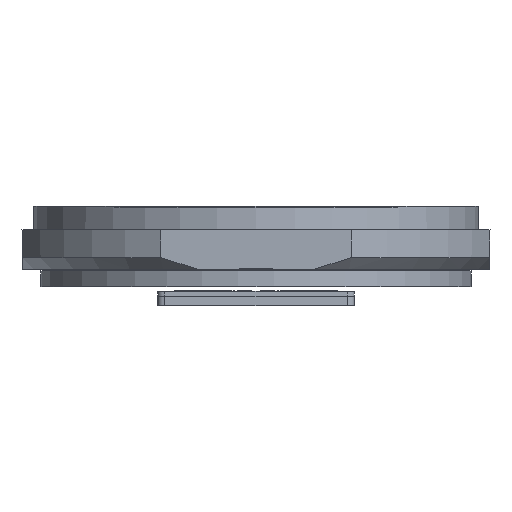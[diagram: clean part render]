
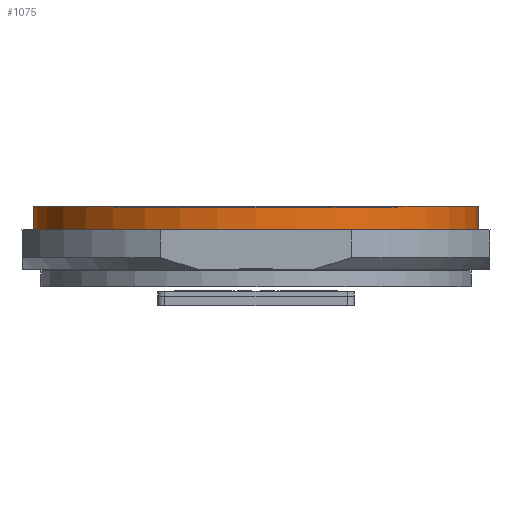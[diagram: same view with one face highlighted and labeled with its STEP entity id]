
A CAD part, left-side view. The second image highlights one B-rep face of the part: STEP entity #1075.
In plain terms, the highlighted conical face has half-angle 1 degrees and reference radius 4.75 mm.
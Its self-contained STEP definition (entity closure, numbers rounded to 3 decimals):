
#38 = FACE_OUTER_BOUND ( 'NONE', #3893, .T. ) ;
#388 = VERTEX_POINT ( 'NONE', #5394 ) ;
#730 = EDGE_CURVE ( 'NONE', #5850, #5850, #1280, .T. ) ;
#1075 = ADVANCED_FACE ( 'NONE', ( #38, #5069 ), #6520, .T. ) ;
#1137 = CIRCLE ( 'NONE', #7017, 4.759 ) ;
#1154 = AXIS2_PLACEMENT_3D ( 'NONE', #1678, #4868, #2232 ) ;
#1280 = CIRCLE ( 'NONE', #1154, 4.75 ) ;
#1678 = CARTESIAN_POINT ( 'NONE',  ( 0., 0., 1.72 ) ) ;
#1765 = CARTESIAN_POINT ( 'NONE',  ( 0., 0., 1.72 ) ) ;
#2232 = DIRECTION ( 'NONE',  ( 0., 1., 0. ) ) ;
#2596 = ORIENTED_EDGE ( 'NONE', *, *, #730, .F. ) ;
#2962 = AXIS2_PLACEMENT_3D ( 'NONE', #1765, #5022, #7532 ) ;
#3893 = EDGE_LOOP ( 'NONE', ( #4537 ) ) ;
#4337 = EDGE_LOOP ( 'NONE', ( #2596 ) ) ;
#4537 = ORIENTED_EDGE ( 'NONE', *, *, #5102, .T. ) ;
#4868 = DIRECTION ( 'NONE',  ( 0., 0., 1. ) ) ;
#5022 = DIRECTION ( 'NONE',  ( 0., 0., -1. ) ) ;
#5069 = FACE_BOUND ( 'NONE', #4337, .T. ) ;
#5102 = EDGE_CURVE ( 'NONE', #388, #388, #1137, .T. ) ;
#5394 = CARTESIAN_POINT ( 'NONE',  ( 0., -4.759, 1.22 ) ) ;
#5518 = DIRECTION ( 'NONE',  ( 0., 0., 1. ) ) ;
#5850 = VERTEX_POINT ( 'NONE', #7369 ) ;
#6010 = CARTESIAN_POINT ( 'NONE',  ( 0., 0., 1.22 ) ) ;
#6520 = CONICAL_SURFACE ( 'NONE', #2962, 4.75, 0.017 ) ;
#6799 = DIRECTION ( 'NONE',  ( 0., -1., 0. ) ) ;
#7017 = AXIS2_PLACEMENT_3D ( 'NONE', #6010, #5518, #6799 ) ;
#7369 = CARTESIAN_POINT ( 'NONE',  ( 0., 4.75, 1.72 ) ) ;
#7532 = DIRECTION ( 'NONE',  ( 0., 1., 0. ) ) ;
